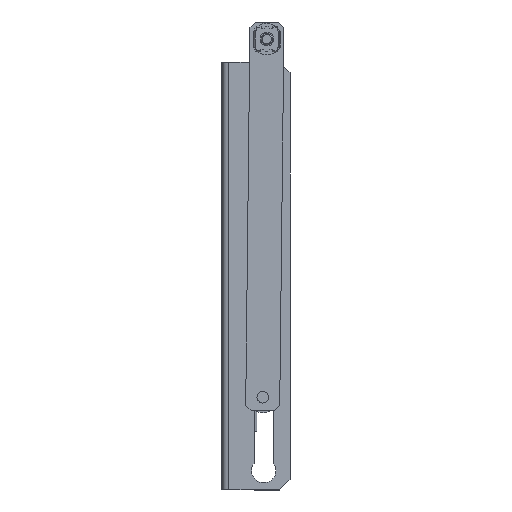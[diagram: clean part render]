
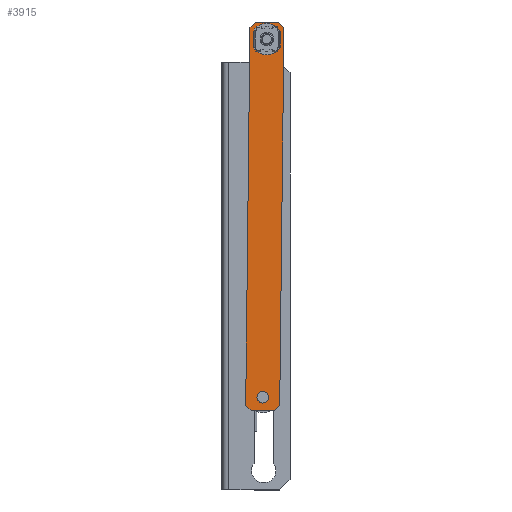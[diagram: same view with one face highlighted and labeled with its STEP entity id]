
A CAD part, front view. The second image highlights one B-rep face of the part: STEP entity #3915.
In plain terms, the highlighted planar face has unit normal (0, -1, 0).
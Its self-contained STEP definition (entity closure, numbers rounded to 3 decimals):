
#39 = ORIENTED_EDGE ( 'NONE', *, *, #3866, .F. ) ;
#153 = LINE ( 'NONE', #1149, #3077 ) ;
#160 = CARTESIAN_POINT ( 'NONE',  ( -3.95, 0., 86.5 ) ) ;
#178 = ORIENTED_EDGE ( 'NONE', *, *, #1222, .T. ) ;
#220 = CARTESIAN_POINT ( 'NONE',  ( 0., 0., -96. ) ) ;
#249 = LINE ( 'NONE', #1029, #4871 ) ;
#297 = ORIENTED_EDGE ( 'NONE', *, *, #2181, .F. ) ;
#328 = EDGE_CURVE ( 'NONE', #956, #4310, #1611, .T. ) ;
#403 = EDGE_CURVE ( 'NONE', #4513, #3285, #10375, .T. ) ;
#405 = DIRECTION ( 'NONE',  ( 0., 0., 1. ) ) ;
#465 = VERTEX_POINT ( 'NONE', #3702 ) ;
#806 = VERTEX_POINT ( 'NONE', #7884 ) ;
#847 = ORIENTED_EDGE ( 'NONE', *, *, #4623, .F. ) ;
#893 = LINE ( 'NONE', #1775, #10779 ) ;
#956 = VERTEX_POINT ( 'NONE', #6525 ) ;
#1016 = CARTESIAN_POINT ( 'NONE',  ( -8.75, 0., -97.188 ) ) ;
#1029 = CARTESIAN_POINT ( 'NONE',  ( 4.75, 0., 87.3 ) ) ;
#1084 = DIRECTION ( 'NONE',  ( 0., 0., 1. ) ) ;
#1149 = CARTESIAN_POINT ( 'NONE',  ( -3.95, 0., 86.5 ) ) ;
#1222 = EDGE_CURVE ( 'NONE', #1971, #6047, #8255, .T. ) ;
#1326 = CARTESIAN_POINT ( 'NONE',  ( 8.75, 0., -97.188 ) ) ;
#1484 = CARTESIAN_POINT ( 'NONE',  ( -3.95, 0., 87.3 ) ) ;
#1611 = CIRCLE ( 'NONE', #5710, 0.8 ) ;
#1699 = DIRECTION ( 'NONE',  ( 0., 0., 1. ) ) ;
#1775 = CARTESIAN_POINT ( 'NONE',  ( -8.75, 0., 100. ) ) ;
#1845 = CARTESIAN_POINT ( 'NONE',  ( 4.75, 0., 95.2 ) ) ;
#1962 = CARTESIAN_POINT ( 'NONE',  ( 0., 0., -93. ) ) ;
#1971 = VERTEX_POINT ( 'NONE', #4253 ) ;
#2023 = ORIENTED_EDGE ( 'NONE', *, *, #10512, .F. ) ;
#2181 = EDGE_CURVE ( 'NONE', #3290, #5513, #2625, .T. ) ;
#2189 = AXIS2_PLACEMENT_3D ( 'NONE', #6781, #10197, #3982 ) ;
#2211 = LINE ( 'NONE', #5618, #8170 ) ;
#2344 = CARTESIAN_POINT ( 'NONE',  ( 4.75, 0., 87.3 ) ) ;
#2444 = VERTEX_POINT ( 'NONE', #1016 ) ;
#2550 = CIRCLE ( 'NONE', #8274, 3. ) ;
#2625 = CIRCLE ( 'NONE', #9412, 0.8 ) ;
#2742 = CARTESIAN_POINT ( 'NONE',  ( 0., 0., -90. ) ) ;
#2752 = DIRECTION ( 'NONE',  ( 0., -1., 0. ) ) ;
#2758 = DIRECTION ( 'NONE',  ( 0.707, 0., 0.707 ) ) ;
#2760 = EDGE_CURVE ( 'NONE', #806, #3285, #893, .T. ) ;
#2923 = ORIENTED_EDGE ( 'NONE', *, *, #4164, .T. ) ;
#2978 = AXIS2_PLACEMENT_3D ( 'NONE', #10118, #8440, #4177 ) ;
#3077 = VECTOR ( 'NONE', #4431, 1000. ) ;
#3087 = CIRCLE ( 'NONE', #2189, 3. ) ;
#3159 = DIRECTION ( 'NONE',  ( 0., 0., -1. ) ) ;
#3283 = FACE_OUTER_BOUND ( 'NONE', #5685, .T. ) ;
#3285 = VERTEX_POINT ( 'NONE', #5550 ) ;
#3290 = VERTEX_POINT ( 'NONE', #6227 ) ;
#3532 = VECTOR ( 'NONE', #8275, 1000. ) ;
#3543 = DIRECTION ( 'NONE',  ( 0.707, 0., -0.707 ) ) ;
#3563 = VECTOR ( 'NONE', #2758, 1000. ) ;
#3634 = DIRECTION ( 'NONE',  ( 0., 0., 1. ) ) ;
#3635 = VERTEX_POINT ( 'NONE', #1845 ) ;
#3684 = DIRECTION ( 'NONE',  ( 0., -1., 0. ) ) ;
#3702 = CARTESIAN_POINT ( 'NONE',  ( 8.75, 0., -97.188 ) ) ;
#3836 = VERTEX_POINT ( 'NONE', #4908 ) ;
#3866 = EDGE_CURVE ( 'NONE', #6777, #3836, #5078, .T. ) ;
#3915 = ADVANCED_FACE ( 'NONE', ( #4121, #5910, #3283 ), #6701, .F. ) ;
#3931 = CARTESIAN_POINT ( 'NONE',  ( -8.75, 0., 97.188 ) ) ;
#3982 = DIRECTION ( 'NONE',  ( 0., 0., 1. ) ) ;
#4061 = CARTESIAN_POINT ( 'NONE',  ( 8.75, 0., 97.188 ) ) ;
#4121 = FACE_BOUND ( 'NONE', #9854, .T. ) ;
#4164 = EDGE_CURVE ( 'NONE', #465, #8703, #2211, .T. ) ;
#4170 = EDGE_LOOP ( 'NONE', ( #5082, #847, #39, #9396, #9444, #297, #2023, #5973 ) ) ;
#4177 = DIRECTION ( 'NONE',  ( 0., 0., 1. ) ) ;
#4213 = EDGE_CURVE ( 'NONE', #1971, #2444, #4952, .T. ) ;
#4217 = CIRCLE ( 'NONE', #10484, 0.8 ) ;
#4233 = ORIENTED_EDGE ( 'NONE', *, *, #2760, .T. ) ;
#4253 = CARTESIAN_POINT ( 'NONE',  ( -5.938, 0., -100. ) ) ;
#4274 = EDGE_CURVE ( 'NONE', #6138, #956, #6744, .T. ) ;
#4310 = VERTEX_POINT ( 'NONE', #160 ) ;
#4317 = VECTOR ( 'NONE', #6708, 1000. ) ;
#4325 = LINE ( 'NONE', #9481, #9645 ) ;
#4431 = DIRECTION ( 'NONE',  ( 1., 0., 0. ) ) ;
#4445 = ORIENTED_EDGE ( 'NONE', *, *, #8957, .F. ) ;
#4513 = VERTEX_POINT ( 'NONE', #3931 ) ;
#4623 = EDGE_CURVE ( 'NONE', #3836, #6138, #4217, .T. ) ;
#4744 = DIRECTION ( 'NONE',  ( 0., -1., 0. ) ) ;
#4871 = VECTOR ( 'NONE', #3634, 1000. ) ;
#4908 = CARTESIAN_POINT ( 'NONE',  ( -3.95, 0., 96. ) ) ;
#4916 = LINE ( 'NONE', #9111, #4317 ) ;
#4917 = VERTEX_POINT ( 'NONE', #2742 ) ;
#4952 = LINE ( 'NONE', #5677, #10489 ) ;
#4953 = CARTESIAN_POINT ( 'NONE',  ( -4.75, 0., 95.2 ) ) ;
#4994 = ORIENTED_EDGE ( 'NONE', *, *, #403, .F. ) ;
#5078 = LINE ( 'NONE', #6811, #3532 ) ;
#5082 = ORIENTED_EDGE ( 'NONE', *, *, #4274, .F. ) ;
#5372 = CARTESIAN_POINT ( 'NONE',  ( 3.95, 0., 87.3 ) ) ;
#5513 = VERTEX_POINT ( 'NONE', #2344 ) ;
#5534 = DIRECTION ( 'NONE',  ( 0., 0., 1. ) ) ;
#5550 = CARTESIAN_POINT ( 'NONE',  ( -5.938, 0., 100. ) ) ;
#5618 = CARTESIAN_POINT ( 'NONE',  ( 8.75, 0., 91.25 ) ) ;
#5677 = CARTESIAN_POINT ( 'NONE',  ( -8.75, 0., -97.188 ) ) ;
#5685 = EDGE_LOOP ( 'NONE', ( #4445, #2923, #10793, #4233, #4994, #10894, #9206, #178 ) ) ;
#5710 = AXIS2_PLACEMENT_3D ( 'NONE', #1484, #5997, #10429 ) ;
#5910 = FACE_BOUND ( 'NONE', #4170, .T. ) ;
#5973 = ORIENTED_EDGE ( 'NONE', *, *, #328, .F. ) ;
#5997 = DIRECTION ( 'NONE',  ( 0., -1., 0. ) ) ;
#6047 = VERTEX_POINT ( 'NONE', #8095 ) ;
#6077 = DIRECTION ( 'NONE',  ( -1., 0., 0. ) ) ;
#6138 = VERTEX_POINT ( 'NONE', #4953 ) ;
#6227 = CARTESIAN_POINT ( 'NONE',  ( 3.95, 0., 86.5 ) ) ;
#6347 = EDGE_CURVE ( 'NONE', #806, #8703, #4325, .T. ) ;
#6410 = VERTEX_POINT ( 'NONE', #220 ) ;
#6525 = CARTESIAN_POINT ( 'NONE',  ( -4.75, 0., 87.3 ) ) ;
#6701 = PLANE ( 'NONE',  #2978 ) ;
#6708 = DIRECTION ( 'NONE',  ( 0., 0., -1. ) ) ;
#6744 = LINE ( 'NONE', #10830, #11020 ) ;
#6777 = VERTEX_POINT ( 'NONE', #8727 ) ;
#6781 = CARTESIAN_POINT ( 'NONE',  ( 0., 0., -93. ) ) ;
#6811 = CARTESIAN_POINT ( 'NONE',  ( -3.95, 0., 96. ) ) ;
#6953 = ORIENTED_EDGE ( 'NONE', *, *, #10797, .F. ) ;
#7185 = AXIS2_PLACEMENT_3D ( 'NONE', #7219, #3684, #405 ) ;
#7219 = CARTESIAN_POINT ( 'NONE',  ( 3.95, 0., 95.2 ) ) ;
#7748 = CARTESIAN_POINT ( 'NONE',  ( -8.75, 0., 97.188 ) ) ;
#7884 = CARTESIAN_POINT ( 'NONE',  ( 5.938, 0., 100. ) ) ;
#8086 = DIRECTION ( 'NONE',  ( 1., 0., 0. ) ) ;
#8095 = CARTESIAN_POINT ( 'NONE',  ( 5.938, 0., -100. ) ) ;
#8170 = VECTOR ( 'NONE', #9033, 1000. ) ;
#8255 = LINE ( 'NONE', #9139, #10184 ) ;
#8274 = AXIS2_PLACEMENT_3D ( 'NONE', #1962, #4744, #5534 ) ;
#8275 = DIRECTION ( 'NONE',  ( -1., 0., 0. ) ) ;
#8440 = DIRECTION ( 'NONE',  ( 0., 1., 0. ) ) ;
#8573 = CARTESIAN_POINT ( 'NONE',  ( -3.95, 0., 95.2 ) ) ;
#8703 = VERTEX_POINT ( 'NONE', #4061 ) ;
#8727 = CARTESIAN_POINT ( 'NONE',  ( 3.95, 0., 96. ) ) ;
#8738 = DIRECTION ( 'NONE',  ( 0., -1., 0. ) ) ;
#8860 = LINE ( 'NONE', #1326, #9694 ) ;
#8957 = EDGE_CURVE ( 'NONE', #465, #6047, #8860, .T. ) ;
#9033 = DIRECTION ( 'NONE',  ( 0., 0., 1. ) ) ;
#9092 = DIRECTION ( 'NONE',  ( -0.707, 0., 0.707 ) ) ;
#9111 = CARTESIAN_POINT ( 'NONE',  ( -8.75, 0., -91.25 ) ) ;
#9139 = CARTESIAN_POINT ( 'NONE',  ( -8.75, 0., -100. ) ) ;
#9171 = CIRCLE ( 'NONE', #7185, 0.8 ) ;
#9206 = ORIENTED_EDGE ( 'NONE', *, *, #4213, .F. ) ;
#9396 = ORIENTED_EDGE ( 'NONE', *, *, #9881, .F. ) ;
#9412 = AXIS2_PLACEMENT_3D ( 'NONE', #5372, #8738, #1084 ) ;
#9444 = ORIENTED_EDGE ( 'NONE', *, *, #10933, .F. ) ;
#9481 = CARTESIAN_POINT ( 'NONE',  ( 8.75, 0., 97.188 ) ) ;
#9645 = VECTOR ( 'NONE', #3543, 1000. ) ;
#9694 = VECTOR ( 'NONE', #10651, 1000. ) ;
#9796 = ORIENTED_EDGE ( 'NONE', *, *, #11007, .F. ) ;
#9854 = EDGE_LOOP ( 'NONE', ( #6953, #9796 ) ) ;
#9881 = EDGE_CURVE ( 'NONE', #3635, #6777, #9171, .T. ) ;
#10031 = EDGE_CURVE ( 'NONE', #4513, #2444, #4916, .T. ) ;
#10118 = CARTESIAN_POINT ( 'NONE',  ( 0., 0., 0. ) ) ;
#10184 = VECTOR ( 'NONE', #8086, 1000. ) ;
#10197 = DIRECTION ( 'NONE',  ( 0., -1., 0. ) ) ;
#10375 = LINE ( 'NONE', #7748, #3563 ) ;
#10429 = DIRECTION ( 'NONE',  ( 0., 0., 1. ) ) ;
#10484 = AXIS2_PLACEMENT_3D ( 'NONE', #8573, #2752, #1699 ) ;
#10489 = VECTOR ( 'NONE', #9092, 1000. ) ;
#10512 = EDGE_CURVE ( 'NONE', #4310, #3290, #153, .T. ) ;
#10651 = DIRECTION ( 'NONE',  ( -0.707, 0., -0.707 ) ) ;
#10779 = VECTOR ( 'NONE', #6077, 1000. ) ;
#10793 = ORIENTED_EDGE ( 'NONE', *, *, #6347, .F. ) ;
#10797 = EDGE_CURVE ( 'NONE', #4917, #6410, #3087, .T. ) ;
#10830 = CARTESIAN_POINT ( 'NONE',  ( -4.75, 0., 87.3 ) ) ;
#10894 = ORIENTED_EDGE ( 'NONE', *, *, #10031, .T. ) ;
#10933 = EDGE_CURVE ( 'NONE', #5513, #3635, #249, .T. ) ;
#11007 = EDGE_CURVE ( 'NONE', #6410, #4917, #2550, .T. ) ;
#11020 = VECTOR ( 'NONE', #3159, 1000. ) ;
